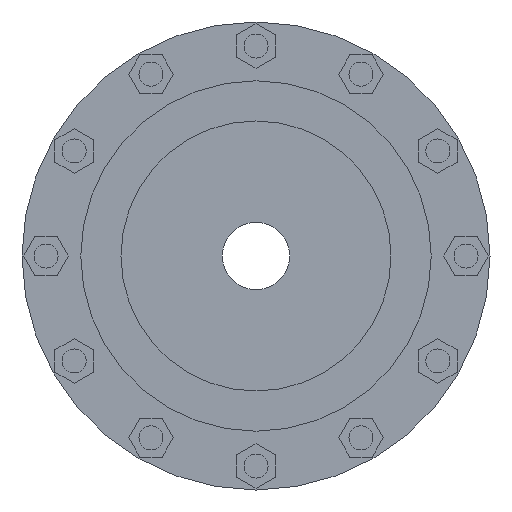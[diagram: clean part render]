
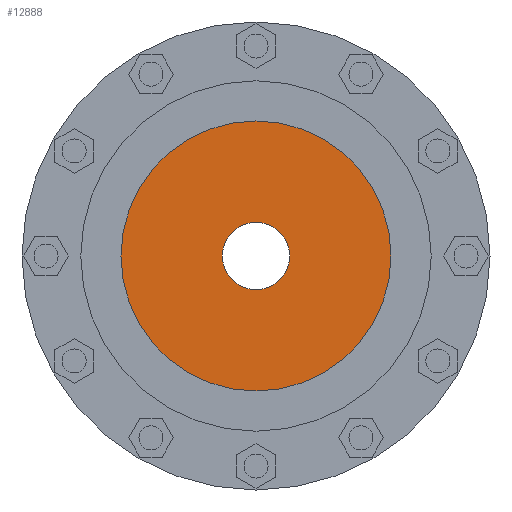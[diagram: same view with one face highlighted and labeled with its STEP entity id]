
A CAD part, left-side view. The second image highlights one B-rep face of the part: STEP entity #12888.
In plain terms, the highlighted planar face has unit normal (-1, 0, 0).
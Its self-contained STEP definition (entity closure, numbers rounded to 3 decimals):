
#12586=CARTESIAN_POINT('',(-141.,0.,0.));
#12587=DIRECTION('',(1.,0.,0.));
#12588=DIRECTION('',(0.,1.,0.));
#12589=AXIS2_PLACEMENT_3D('',#12586,#12587,#12588);
#12665=CARTESIAN_POINT('',(-141.,0.,0.));
#12666=DIRECTION('',(-1.,0.,0.));
#12667=DIRECTION('',(0.,1.,0.));
#12668=AXIS2_PLACEMENT_3D('',#12665,#12666,#12667);
#12670=CARTESIAN_POINT('',(-141.,0.,0.));
#12671=DIRECTION('',(1.,0.,0.));
#12672=DIRECTION('',(0.,1.,0.));
#12673=AXIS2_PLACEMENT_3D('',#12670,#12671,#12672);
#12684=CARTESIAN_POINT('',(-141.,0.,0.));
#12685=DIRECTION('',(-1.,0.,0.));
#12686=DIRECTION('',(0.,1.,0.));
#12687=AXIS2_PLACEMENT_3D('',#12684,#12685,#12686);
#12693=CARTESIAN_POINT('',(-141.,14.,0.));
#12694=CARTESIAN_POINT('',(-141.,-14.,0.));
#12695=VERTEX_POINT('',#12693);
#12696=VERTEX_POINT('',#12694);
#12697=CARTESIAN_POINT('',(-141.,56.25,0.));
#12698=CARTESIAN_POINT('',(-141.,-56.25,0.));
#12699=VERTEX_POINT('',#12697);
#12700=VERTEX_POINT('',#12698);
#12874=CARTESIAN_POINT('',(-141.,0.,0.));
#12875=DIRECTION('',(1.,0.,0.));
#12876=DIRECTION('',(0.,-1.,0.));
#12877=AXIS2_PLACEMENT_3D('',#12874,#12875,#12876);
#12878=PLANE('',#12877);
#12879=ORIENTED_EDGE('',*,*,#12856,.F.);
#12880=ORIENTED_EDGE('',*,*,#12869,.T.);
#12881=EDGE_LOOP('',(#12879,#12880));
#12882=FACE_OUTER_BOUND('',#12881,.F.);
#12883=ORIENTED_EDGE('',*,*,#12734,.F.);
#12885=ORIENTED_EDGE('',*,*,#12884,.T.);
#12886=EDGE_LOOP('',(#12883,#12885));
#12887=FACE_BOUND('',#12886,.F.);
#12888=ADVANCED_FACE('',(#12882,#12887),#12878,.F.);
#12590=CIRCLE('',#12589,14.);
#12669=CIRCLE('',#12668,56.25);
#12674=CIRCLE('',#12673,56.25);
#12688=CIRCLE('',#12687,14.);
#12734=EDGE_CURVE('',#12695,#12696,#12590,.T.);
#12856=EDGE_CURVE('',#12699,#12700,#12669,.T.);
#12869=EDGE_CURVE('',#12699,#12700,#12674,.T.);
#12884=EDGE_CURVE('',#12695,#12696,#12688,.T.);
